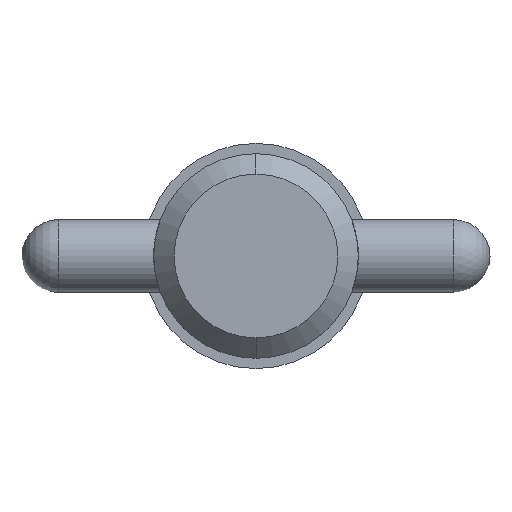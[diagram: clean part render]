
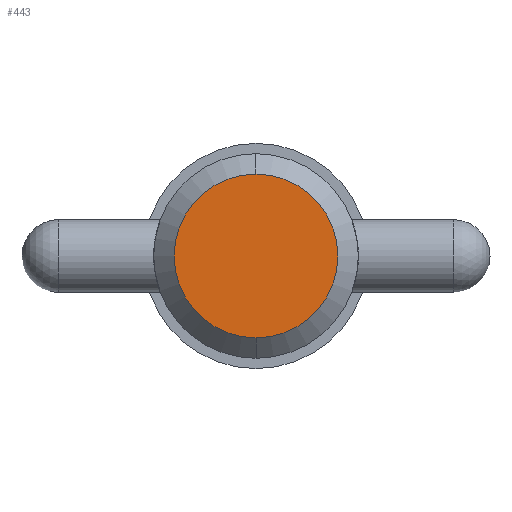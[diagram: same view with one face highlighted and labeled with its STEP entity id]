
A CAD part, left-side view. The second image highlights one B-rep face of the part: STEP entity #443.
In plain terms, the highlighted planar face has unit normal (-1, 0, 0).
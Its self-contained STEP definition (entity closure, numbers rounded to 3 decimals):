
#1 = EDGE_CURVE ( 'NONE', #821, #346, #174, .T. ) ;
#88 = CARTESIAN_POINT ( 'NONE',  ( 0., 0., 0. ) ) ;
#91 = CARTESIAN_POINT ( 'NONE',  ( 0., 0., 0. ) ) ;
#98 = ORIENTED_EDGE ( 'NONE', *, *, #1, .F. ) ;
#138 = DIRECTION ( 'NONE',  ( 1., 0., 0. ) ) ;
#174 = CIRCLE ( 'NONE', #349, 4.444 ) ;
#262 = AXIS2_PLACEMENT_3D ( 'NONE', #91, #971, #711 ) ;
#318 = DIRECTION ( 'NONE',  ( 0., 0., 1. ) ) ;
#346 = VERTEX_POINT ( 'NONE', #573 ) ;
#349 = AXIS2_PLACEMENT_3D ( 'NONE', #619, #138, #701 ) ;
#411 = EDGE_CURVE ( 'NONE', #346, #821, #454, .T. ) ;
#424 = ORIENTED_EDGE ( 'NONE', *, *, #411, .F. ) ;
#443 = ADVANCED_FACE ( 'NONE', ( #893 ), #801, .T. ) ;
#454 = CIRCLE ( 'NONE', #262, 4.444 ) ;
#506 = DIRECTION ( 'NONE',  ( -1., 0., 0. ) ) ;
#573 = CARTESIAN_POINT ( 'NONE',  ( 0., 0., 4.444 ) ) ;
#592 = AXIS2_PLACEMENT_3D ( 'NONE', #88, #506, #318 ) ;
#600 = EDGE_LOOP ( 'NONE', ( #98, #424 ) ) ;
#619 = CARTESIAN_POINT ( 'NONE',  ( 0., 0., 0. ) ) ;
#701 = DIRECTION ( 'NONE',  ( 0., 0., -1. ) ) ;
#711 = DIRECTION ( 'NONE',  ( 0., 0., -1. ) ) ;
#746 = CARTESIAN_POINT ( 'NONE',  ( 0., 0., -4.444 ) ) ;
#801 = PLANE ( 'NONE',  #592 ) ;
#821 = VERTEX_POINT ( 'NONE', #746 ) ;
#893 = FACE_OUTER_BOUND ( 'NONE', #600, .T. ) ;
#971 = DIRECTION ( 'NONE',  ( 1., 0., 0. ) ) ;
